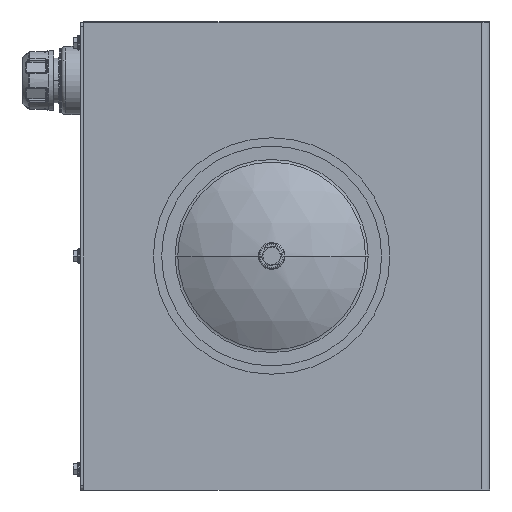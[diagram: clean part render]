
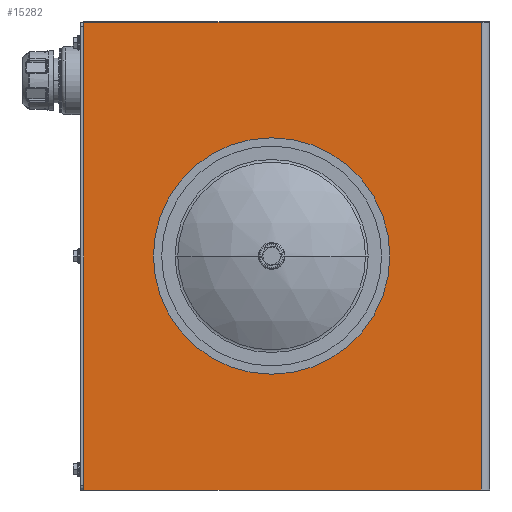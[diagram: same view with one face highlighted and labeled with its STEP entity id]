
A CAD part, left-side view. The second image highlights one B-rep face of the part: STEP entity #15282.
In plain terms, the highlighted planar face has unit normal (-1, 0, 0).
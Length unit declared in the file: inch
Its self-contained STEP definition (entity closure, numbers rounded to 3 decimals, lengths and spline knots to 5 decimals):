
#357 = ORIENTED_EDGE ( 'NONE', *, *, #17748, .T. ) ;
#452 = DIRECTION ( 'NONE',  ( 0., -1., 0. ) ) ;
#619 = CARTESIAN_POINT ( 'NONE',  ( -20.92733, 10.61446, -12.2677 ) ) ;
#667 = VERTEX_POINT ( 'NONE', #2898 ) ;
#2898 = CARTESIAN_POINT ( 'NONE',  ( -20.92733, 10.61446, 11.7323 ) ) ;
#3097 = DIRECTION ( 'NONE',  ( -1., 0., 0. ) ) ;
#3101 = CARTESIAN_POINT ( 'NONE',  ( -20.92733, -10.19554, -12.2677 ) ) ;
#3505 = VERTEX_POINT ( 'NONE', #8763 ) ;
#4000 = ORIENTED_EDGE ( 'NONE', *, *, #20100, .T. ) ;
#5386 = FACE_OUTER_BOUND ( 'NONE', #14296, .T. ) ;
#5834 = DIRECTION ( 'NONE',  ( 1., 0., 0. ) ) ;
#6674 = CARTESIAN_POINT ( 'NONE',  ( -20.92733, -9.76624, -12.2677 ) ) ;
#7008 = FACE_BOUND ( 'NONE', #30379, .T. ) ;
#7085 = CARTESIAN_POINT ( 'NONE',  ( -20.92733, 0.98446, -0.2677 ) ) ;
#8042 = DIRECTION ( 'NONE',  ( 0., 0., -1. ) ) ;
#8763 = CARTESIAN_POINT ( 'NONE',  ( -20.92733, 0.98446, -5.2677 ) ) ;
#8768 = VERTEX_POINT ( 'NONE', #6674 ) ;
#8841 = ORIENTED_EDGE ( 'NONE', *, *, #19640, .F. ) ;
#9700 = DIRECTION ( 'NONE',  ( 0., 0., 1. ) ) ;
#10812 = VERTEX_POINT ( 'NONE', #15191 ) ;
#11135 = VECTOR ( 'NONE', #25866, 39.37008 ) ;
#12096 = ORIENTED_EDGE ( 'NONE', *, *, #16952, .F. ) ;
#12930 = CARTESIAN_POINT ( 'NONE',  ( -20.92733, -9.76624, -12.2677 ) ) ;
#13564 = PLANE ( 'NONE',  #31371 ) ;
#14296 = EDGE_LOOP ( 'NONE', ( #4000, #30101, #15396, #357 ) ) ;
#15191 = CARTESIAN_POINT ( 'NONE',  ( -20.92733, 0.98446, 4.7323 ) ) ;
#15282 = ADVANCED_FACE ( 'NONE', ( #7008, #5386 ), #13564, .F. ) ;
#15396 = ORIENTED_EDGE ( 'NONE', *, *, #20194, .T. ) ;
#15701 = CARTESIAN_POINT ( 'NONE',  ( -20.92733, -10.19554, 11.7323 ) ) ;
#16952 = EDGE_CURVE ( 'NONE', #3505, #10812, #24994, .T. ) ;
#17218 = LINE ( 'NONE', #20963, #29891 ) ;
#17748 = EDGE_CURVE ( 'NONE', #28395, #8768, #29648, .T. ) ;
#18660 = CARTESIAN_POINT ( 'NONE',  ( -20.92733, 0.98446, -0.2677 ) ) ;
#19535 = EDGE_CURVE ( 'NONE', #25307, #667, #25642, .T. ) ;
#19640 = EDGE_CURVE ( 'NONE', #10812, #3505, #29921, .T. ) ;
#20100 = EDGE_CURVE ( 'NONE', #8768, #25307, #33048, .T. ) ;
#20194 = EDGE_CURVE ( 'NONE', #667, #28395, #17218, .T. ) ;
#20251 = CARTESIAN_POINT ( 'NONE',  ( -20.92733, -9.76624, 11.7323 ) ) ;
#20444 = VECTOR ( 'NONE', #33279, 39.37008 ) ;
#20963 = CARTESIAN_POINT ( 'NONE',  ( -20.92733, 10.61446, -12.2677 ) ) ;
#21204 = DIRECTION ( 'NONE',  ( 0., 0., 1. ) ) ;
#23904 = DIRECTION ( 'NONE',  ( 0., 0., -1. ) ) ;
#24994 = CIRCLE ( 'NONE', #33122, 5. ) ;
#24995 = AXIS2_PLACEMENT_3D ( 'NONE', #18660, #3097, #21204 ) ;
#25106 = DIRECTION ( 'NONE',  ( -1., 0., 0. ) ) ;
#25307 = VERTEX_POINT ( 'NONE', #20251 ) ;
#25642 = LINE ( 'NONE', #15701, #11135 ) ;
#25866 = DIRECTION ( 'NONE',  ( 0., 1., 0. ) ) ;
#28395 = VERTEX_POINT ( 'NONE', #32387 ) ;
#28862 = VECTOR ( 'NONE', #452, 39.37008 ) ;
#29648 = LINE ( 'NONE', #3101, #28862 ) ;
#29891 = VECTOR ( 'NONE', #8042, 39.37008 ) ;
#29921 = CIRCLE ( 'NONE', #24995, 5. ) ;
#30101 = ORIENTED_EDGE ( 'NONE', *, *, #19535, .T. ) ;
#30379 = EDGE_LOOP ( 'NONE', ( #8841, #12096 ) ) ;
#31371 = AXIS2_PLACEMENT_3D ( 'NONE', #619, #5834, #23904 ) ;
#32387 = CARTESIAN_POINT ( 'NONE',  ( -20.92733, 10.61446, -12.2677 ) ) ;
#33048 = LINE ( 'NONE', #12930, #20444 ) ;
#33122 = AXIS2_PLACEMENT_3D ( 'NONE', #7085, #25106, #9700 ) ;
#33279 = DIRECTION ( 'NONE',  ( 0., 0., 1. ) ) ;
